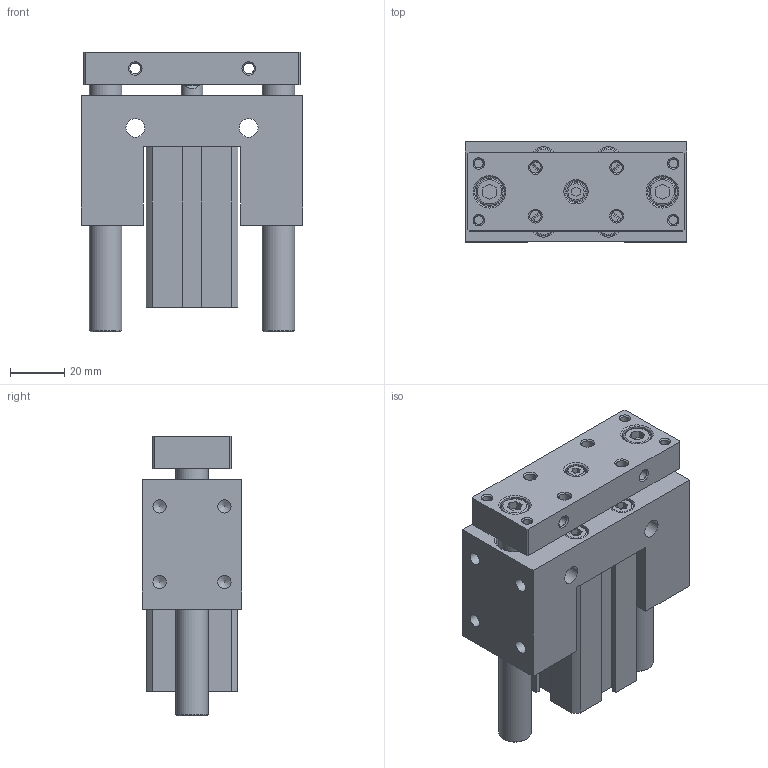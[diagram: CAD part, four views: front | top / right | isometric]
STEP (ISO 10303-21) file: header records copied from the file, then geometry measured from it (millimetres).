
FILE_DESCRIPTION((''),'2;1');
FILE_NAME('I:\3D電子目錄\氣缸\JCB\JCB\JCB20\JCB20x40.stp','2007-08-21T18:17:58',('Administrator'),(''),'Autodesk Inventor 11','Autodesk Inventor 11','');
FILE_SCHEMA(('AUTOMOTIVE_DESIGN { 1 0 10303 214 1 1 1 1 }'));
Length unit declared in the file: millimetre
Products named in the file (1): JCB20
Bounding box: 82 x 37 x 103.5 mm (x, y, z)
Volume: 187847.7 mm3; surface area: 60850.5 mm2
Topology: 5 solids, 5 shells, 293 faces, 643 edges, 415 vertices
Faces by surface type: plane 150, bspline 53, cylinder 45, cone 37, torus 8
Full cylindrical faces by diameter (mm): 1.5 x2, 4.3 x4, 4.917 x4, 7 x9, 8 x1, 8.5 x4, 9 x1, 10 x2, 12 x2, 13 x2, 14 x2, 22 x4, 23.2 x2
Entity records: 7875 total; most frequent: CARTESIAN_POINT 1985, DIRECTION 1184, ORIENTED_EDGE 992, EDGE_LOOP 504, EDGE_CURVE 496, AXIS2_PLACEMENT_3D 447, VERTEX_POINT 394, FACE_OUTER_BOUND 293
